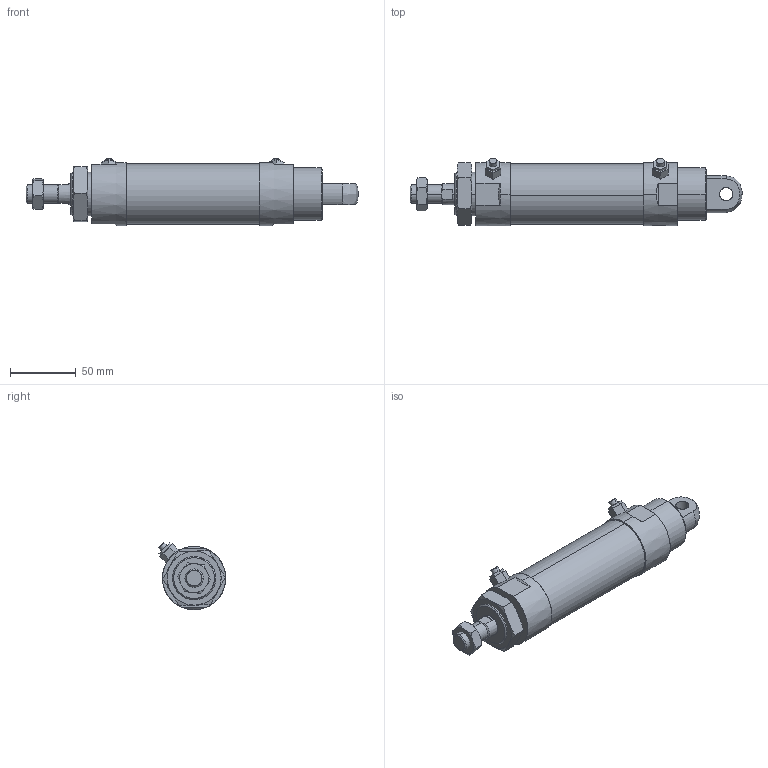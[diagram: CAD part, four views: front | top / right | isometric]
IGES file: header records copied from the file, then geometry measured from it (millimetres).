
Start section: SolidWorks IGES file using analytic representation for surfaces
Global section: file name: C:\Users\Toshiba\Desktop\JG2-40-50-C.IGS; native system: SolidWorks 2014; preprocessor: SolidWorks 2014; author: Toshiba; date: 160419.085213; units: millimetre
Bounding box: 252 x 51.22 x 51.22 mm (x, y, z)
Surface area: 48369.3 mm2 (no closed solid volume)
Topology: 0 solids, 0 shells, 139 faces, 2374 edges, 2370 vertices
Faces by surface type: bspline 94, revolution 45
